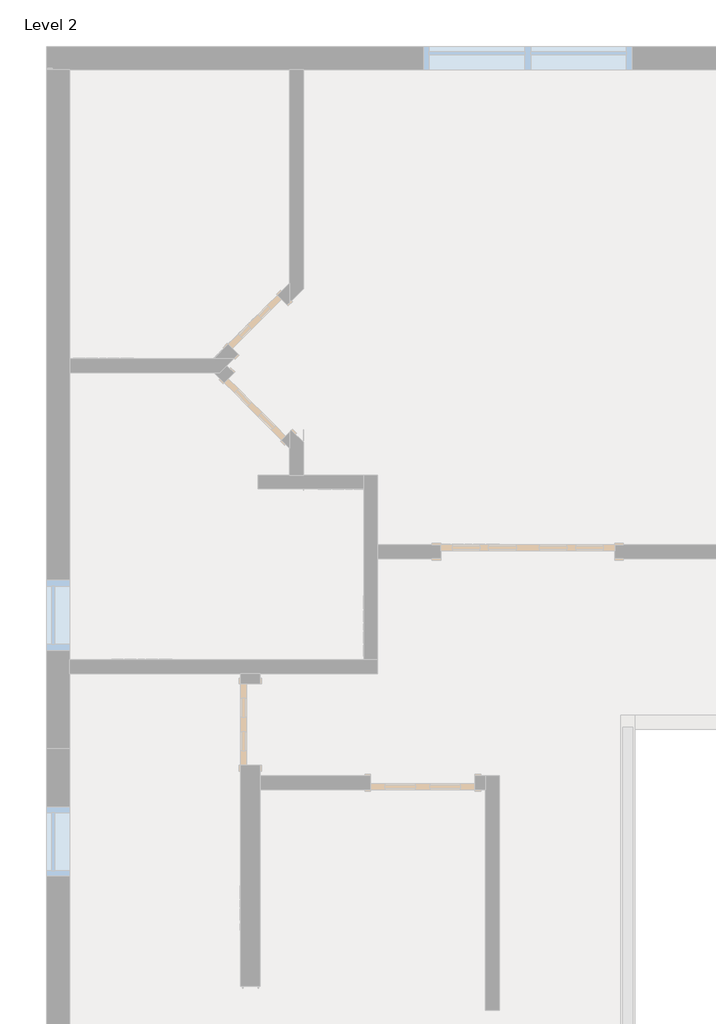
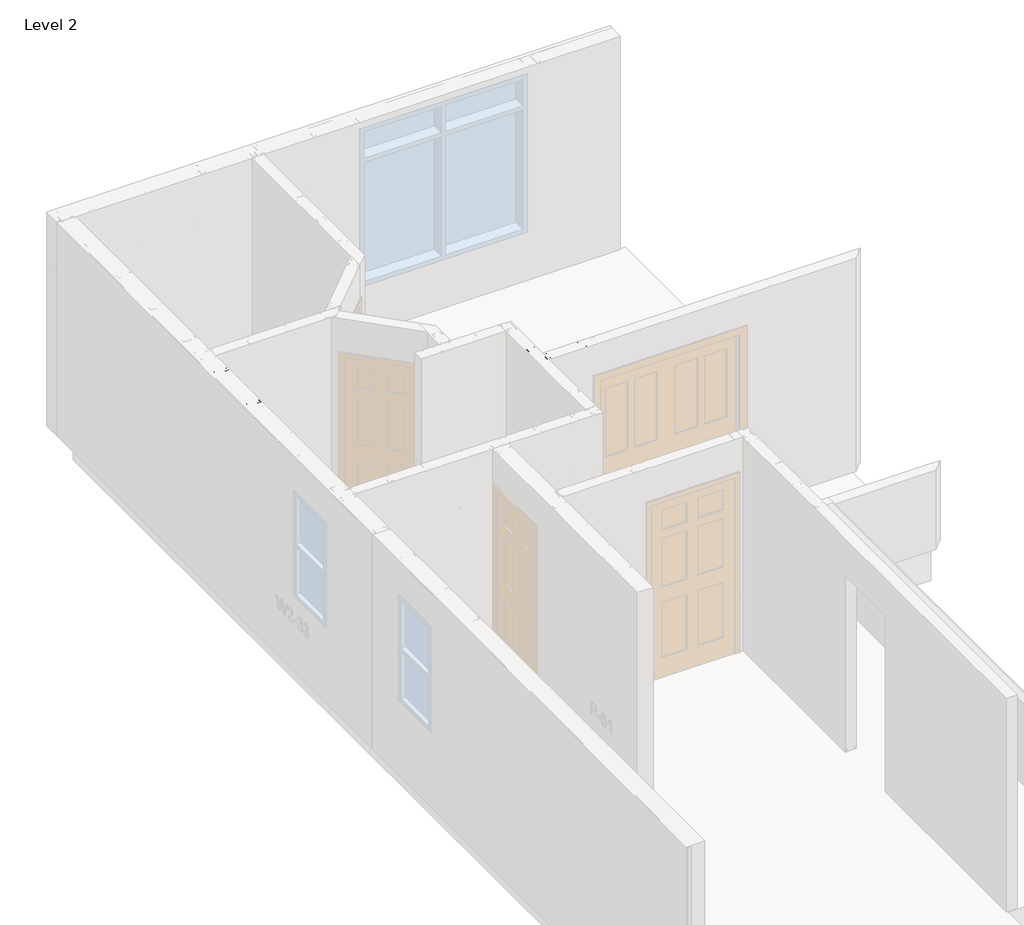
# One storey, part 27 of 46: 6 columns, 2 beams.
"""IFC4 building model written with IfcOpenShell, lengths in millimetres."""

from ifc_helpers import new_model, si_unit, point, frame, origin, place, context, project, spatial, circle_curve, ellipse_curve, trimmed, transform, mapped, element, save
from ifc_brep_helpers import plane_surface, extruded_surface, advanced_brep
from components import beam_350nf150_33_34e1ec87, beam_550nf150_43_92e15598

model = new_model("IFC4")

# Units and contexts
model_context = context("Model", 3, world=origin())
ifc_project = project(units=[si_unit("LENGTHUNIT", "METRE", prefix="MILLI")], contexts=[model_context])

# Site, building, storey
site = spatial("IfcSite", under=ifc_project)
building = spatial("IfcBuilding", under=site)
storey = spatial("IfcBuildingStorey", under=building, Name="Level 2", Elevation=3060.7)

# Beams
placement = place(None, origin())
beam_350nf150_33_shape = beam_350nf150_33_34e1ec87(model_context)
element("IfcBeam", 1, ObjectType="BIMSF-SSMA-S : 350NF150-33", at=placement, inside=storey, context=model_context, shape_type="MappedRepresentation", body=[
    mapped(beam_350nf150_33_shape, transform((-12144.5038349, 9633.077221, 3076.575), x_axis=(1.0000000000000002, 0.0, 0.0), y_axis=(0.0, 0.0, -1.0000000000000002), z_axis=(0.0, 1.0000000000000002, 0.0))),
])
beam_550nf150_43_shape = beam_550nf150_43_92e15598(model_context)
element("IfcBeam", 2, ObjectType="BIMSF-SSMA-S : 550NF150-43", at=placement, inside=storey, context=model_context, shape_type="MappedRepresentation", body=[
    mapped(beam_550nf150_43_shape, transform((-15194.0913349, 10886.5324992, 3076.575), x_axis=(0.0, 1.0000000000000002, 0.0), y_axis=(0.0, 0.0, -1.0000000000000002), z_axis=(-1.0000000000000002, 0.0, 0.0))),
])

# Columns
element("IfcColumn", 3, ObjectType="BIMSF-SSMA-S-Column : 350NF150-33", at=placement, inside=storey, context=model_context, shape_type="AdvancedBrep", body=[
    advanced_brep(
    [(-12428.6663349, 9375.902221, 3061.5929687), (-12517.5663349, 9375.902221, 3061.5929687), (-12517.5663349, 9414.002221, 3061.5929687), (-12511.9088191, 9414.002221, 3061.5929687), (-12511.9088191, 9413.1199052, 3061.5929687), (-12516.6840191, 9413.1199052, 3061.5929687), (-12516.6840191, 9376.7845367, 3061.5929687), (-12429.5486507, 9376.7845367, 3061.5929687), (-12429.5486507, 9413.1199052, 3061.5929687), (-12434.3238507, 9413.1199052, 3061.5929687), (-12434.3238507, 9414.002221, 3061.5929687), (-12428.6663349, 9414.002221, 3061.5929687), (-12428.6663349, 9375.902221, 5523.6070313), (-12517.5663349, 9375.902221, 5523.6070313), (-12485.8163349, 9375.902221, 3671.1929688), (-12460.4163349, 9375.902221, 3671.1929688), (-12485.8163349, 9375.902221, 4890.3929688), (-12460.4163349, 9375.902221, 4890.3929687), (-12517.5663349, 9414.002221, 5523.6070313), (-12511.9088191, 9414.002221, 5523.6070313), (-12511.9088191, 9413.1199052, 5523.6070313), (-12516.6840191, 9413.1199052, 5523.6070313), (-12516.6840191, 9376.7845367, 5523.6070313), (-12429.5486507, 9376.7845367, 5523.6070313), (-12460.4163349, 9376.7845367, 3671.1929688), (-12485.8163349, 9376.7845367, 3671.1929688), (-12460.4163349, 9376.7845367, 4890.3929688), (-12485.8163349, 9376.7845367, 4890.3929688), (-12429.5486507, 9413.1199052, 5523.6070313), (-12434.3238507, 9413.1199052, 5523.6070313), (-12434.3238507, 9414.002221, 5523.6070313), (-12428.6663349, 9414.002221, 5523.6070313)],
    [
        (0, 1),
        (1, 2),
        (2, 3),
        (3, 4),
        (4, 5),
        (5, 6),
        (6, 7),
        (7, 8),
        (8, 9),
        (9, 10),
        (10, 11),
        (11, 0),
        (0, 12),
        (12, 13),
        (13, 1),
        (14, 15, circle_curve(frame((-12473.1163349, 9375.902221, 3671.1929688), z_axis=(0.0, 1.0, 0.0), x_axis=(-1.0, 0.0, 0.0)), 12.7)),
        (15, 14, circle_curve(frame((-12473.1163349, 9375.902221, 3671.1929688), z_axis=(0.0, 1.0, 0.0), x_axis=(-1.0, 0.0, 0.0)), 12.7)),
        (16, 17, circle_curve(frame((-12473.1163349, 9375.902221, 4890.3929687), z_axis=(0.0, 1.0, 0.0), x_axis=(-1.0, 0.0, 0.0)), 12.7)),
        (17, 16, circle_curve(frame((-12473.1163349, 9375.902221, 4890.3929687), z_axis=(0.0, 1.0, 0.0), x_axis=(-1.0, 0.0, 0.0)), 12.7)),
        (13, 18),
        (18, 2),
        (18, 19),
        (19, 3),
        (19, 20),
        (20, 4),
        (20, 21),
        (21, 5),
        (21, 22),
        (22, 6),
        (22, 23),
        (23, 7),
        (24, 25, circle_curve(frame((-12473.1163349, 9376.7845367, 3671.1929687), z_axis=(0.0, -1.0, 0.0), x_axis=(-1.0, 0.0, 0.0)), 12.7)),
        (25, 24, circle_curve(frame((-12473.1163349, 9376.7845367, 3671.1929688), z_axis=(0.0, -1.0, 0.0), x_axis=(-1.0, 0.0, 0.0)), 12.7)),
        (26, 27, circle_curve(frame((-12473.1163349, 9376.7845367, 4890.3929687), z_axis=(0.0, -1.0, 0.0), x_axis=(-1.0, 0.0, 0.0)), 12.7)),
        (27, 26, circle_curve(frame((-12473.1163349, 9376.7845367, 4890.3929687), z_axis=(0.0, -1.0, 0.0), x_axis=(-1.0, 0.0, 0.0)), 12.7)),
        (23, 28),
        (28, 8),
        (28, 29),
        (29, 9),
        (29, 30),
        (30, 10),
        (30, 31),
        (31, 11),
        (31, 12),
        (24, 15),
        (14, 25),
        (26, 17),
        (16, 27),
    ],
    [
        plane_surface(frame((-12428.6663349, 9375.902221, 3061.5929687), z_axis=(0.0, 0.0, -1.0), x_axis=(0.0, -1.0, 0.0))),
        plane_surface(frame((-12517.5663349, 9375.902221, 5523.6070313), z_axis=(0.0, -1.0, 0.0), x_axis=(0.0, 0.0, -1.0))),
        plane_surface(frame((-12517.5663349, 9414.002221, 5523.6070313), z_axis=(-1.0, 0.0, 0.0), x_axis=(0.0, 0.0, -1.0))),
        plane_surface(frame((-12511.9088191, 9414.002221, 5523.6070313), z_axis=(0.0, 1.0, 0.0), x_axis=(0.0, 0.0, -1.0))),
        plane_surface(frame((-12511.9088191, 9413.1199052, 5523.6070313), z_axis=(1.0, 0.0, 0.0), x_axis=(0.0, 0.0, -1.0))),
        plane_surface(frame((-12516.6840191, 9413.1199052, 5523.6070313), z_axis=(0.0, -1.0, 0.0), x_axis=(0.0, 0.0, -1.0))),
        plane_surface(frame((-12516.6840191, 9376.7845367, 5523.6070313), z_axis=(1.0, 0.0, 0.0), x_axis=(0.0, 0.0, -1.0))),
        plane_surface(frame((-12429.5486507, 9376.7845367, 5523.6070313), z_axis=(0.0, 1.0, 0.0), x_axis=(0.0, 0.0, -1.0))),
        plane_surface(frame((-12429.5486507, 9413.1199052, 5523.6070313), z_axis=(-1.0, 0.0, 0.0), x_axis=(0.0, 0.0, -1.0))),
        plane_surface(frame((-12434.3238507, 9413.1199052, 5523.6070313), z_axis=(0.0, -1.0, 0.0), x_axis=(0.0, 0.0, -1.0))),
        plane_surface(frame((-12434.3238507, 9414.002221, 5523.6070313), z_axis=(-1.0, 0.0, 0.0), x_axis=(0.0, 0.0, -1.0))),
        plane_surface(frame((-12428.6663349, 9414.002221, 5523.6070313), z_axis=(0.0, 1.0, 0.0), x_axis=(0.0, 0.0, -1.0))),
        plane_surface(frame((-12428.6663349, 9375.902221, 5523.6070313), z_axis=(1.0, 0.0, 0.0), x_axis=(0.0, 0.0, -1.0))),
        plane_surface(frame((-12428.6663349, 9375.902221, 5523.6070313), z_axis=(0.0, 0.0, 1.0), x_axis=(0.0, 1.0, 0.0))),
        extruded_surface(trimmed(ellipse_curve(frame((-12473.1163349, 11856.9662835, 3671.1929688), z_axis=(0.0, -1.0, 0.0), x_axis=(-1.0, 0.0, 0.0)), 12.7, 12.7), [point((-12460.4163349, 11856.9662835, 3671.1929688))], [point((-12485.8163349, 11856.9662835, 3671.1929688))], True, "CARTESIAN"), (0.0, 4924.028124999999, 0.0), 4924.028124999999),
        extruded_surface(trimmed(ellipse_curve(frame((-12473.1163349, 11856.9662835, 3671.1929688), z_axis=(0.0, -1.0, 0.0), x_axis=(-1.0, 0.0, 0.0)), 12.7, 12.7), [point((-12485.8163349, 11856.9662835, 3671.1929688))], [point((-12460.4163349, 11856.9662835, 3671.1929688))], True, "CARTESIAN"), (0.0, 4924.028124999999, 0.0), 4924.028124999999),
        extruded_surface(trimmed(ellipse_curve(frame((-12473.1163349, 11856.9662835, 4890.3929687), z_axis=(0.0, -1.0, 0.0), x_axis=(-1.0, 0.0, 0.0)), 12.7, 12.7), [point((-12460.4163349, 11856.9662835, 4890.3929687))], [point((-12485.8163349, 11856.9662835, 4890.3929687))], True, "CARTESIAN"), (0.0, 4924.028124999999, 0.0), 4924.028124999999),
        extruded_surface(trimmed(ellipse_curve(frame((-12473.1163349, 11856.9662835, 4890.3929687), z_axis=(0.0, -1.0, 0.0), x_axis=(-1.0, 0.0, 0.0)), 12.7, 12.7), [point((-12485.8163349, 11856.9662835, 4890.3929687))], [point((-12460.4163349, 11856.9662835, 4890.3929687))], True, "CARTESIAN"), (0.0, 4924.028124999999, 0.0), 4924.028124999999),
    ],
    [
        (0, [[1, 2, 3, 4, 5, 6, 7, 8, 9, 10, 11, 12]]),
        (1, [[-1, 13, 14, 15], [16, 17], [18, 19]]),
        (2, [[-2, -15, 20, 21]]),
        (3, [[-3, -21, 22, 23]]),
        (4, [[-4, -23, 24, 25]]),
        (5, [[-5, -25, 26, 27]]),
        (6, [[-6, -27, 28, 29]]),
        (7, [[-7, -29, 30, 31], [32, 33], [34, 35]]),
        (8, [[-8, -31, 36, 37]]),
        (9, [[-9, -37, 38, 39]]),
        (10, [[-10, -39, 40, 41]]),
        (11, [[-11, -41, 42, 43]]),
        (12, [[-12, -43, 44, -13]]),
        (13, [[-14, -44, -42, -40, -38, -36, -30, -28, -26, -24, -22, -20]]),
        (14, [[45, -16, 46, -32]]),
        (15, [[-45, -33, -46, -17]]),
        (16, [[47, -18, 48, -34]]),
        (17, [[-47, -35, -48, -19]]),
    ],
),
])
element("IfcColumn", 4, ObjectType="BIMSF-SSMA-S-Column : 350NF150-33", at=placement, inside=storey, context=model_context, shape_type="AdvancedBrep", body=[
    advanced_brep(
    [(-12428.6663349, 9782.302221, 3061.5929687), (-12517.5663349, 9782.302221, 3061.5929687), (-12517.5663349, 9820.402221, 3061.5929687), (-12511.9088191, 9820.402221, 3061.5929687), (-12511.9088191, 9819.5199052, 3061.5929687), (-12516.6840191, 9819.5199052, 3061.5929687), (-12516.6840191, 9783.1845367, 3061.5929687), (-12429.5486507, 9783.1845367, 3061.5929687), (-12429.5486507, 9819.5199052, 3061.5929687), (-12434.3238507, 9819.5199052, 3061.5929687), (-12434.3238507, 9820.402221, 3061.5929687), (-12428.6663349, 9820.402221, 3061.5929687), (-12428.6663349, 9782.302221, 5523.6070313), (-12517.5663349, 9782.302221, 5523.6070313), (-12485.8163349, 9782.302221, 3671.1929688), (-12460.4163349, 9782.302221, 3671.1929688), (-12485.8163349, 9782.302221, 4890.3929688), (-12460.4163349, 9782.302221, 4890.3929687), (-12517.5663349, 9820.402221, 5523.6070313), (-12511.9088191, 9820.402221, 5523.6070313), (-12511.9088191, 9819.5199052, 5523.6070313), (-12516.6840191, 9819.5199052, 5523.6070313), (-12516.6840191, 9783.1845367, 5523.6070313), (-12429.5486507, 9783.1845367, 5523.6070313), (-12460.4163349, 9783.1845367, 3671.1929688), (-12485.8163349, 9783.1845367, 3671.1929688), (-12460.4163349, 9783.1845367, 4890.3929688), (-12485.8163349, 9783.1845367, 4890.3929688), (-12429.5486507, 9819.5199052, 5523.6070313), (-12434.3238507, 9819.5199052, 5523.6070313), (-12434.3238507, 9820.402221, 5523.6070313), (-12428.6663349, 9820.402221, 5523.6070313)],
    [
        (0, 1),
        (1, 2),
        (2, 3),
        (3, 4),
        (4, 5),
        (5, 6),
        (6, 7),
        (7, 8),
        (8, 9),
        (9, 10),
        (10, 11),
        (11, 0),
        (0, 12),
        (12, 13),
        (13, 1),
        (14, 15, circle_curve(frame((-12473.1163349, 9782.302221, 3671.1929688), z_axis=(0.0, 1.0, 0.0), x_axis=(-1.0, 0.0, 0.0)), 12.7)),
        (15, 14, circle_curve(frame((-12473.1163349, 9782.302221, 3671.1929688), z_axis=(0.0, 1.0, 0.0), x_axis=(-1.0, 0.0, 0.0)), 12.7)),
        (16, 17, circle_curve(frame((-12473.1163349, 9782.302221, 4890.3929687), z_axis=(0.0, 1.0, 0.0), x_axis=(-1.0, 0.0, 0.0)), 12.7)),
        (17, 16, circle_curve(frame((-12473.1163349, 9782.302221, 4890.3929687), z_axis=(0.0, 1.0, 0.0), x_axis=(-1.0, 0.0, 0.0)), 12.7)),
        (13, 18),
        (18, 2),
        (18, 19),
        (19, 3),
        (19, 20),
        (20, 4),
        (20, 21),
        (21, 5),
        (21, 22),
        (22, 6),
        (22, 23),
        (23, 7),
        (24, 25, circle_curve(frame((-12473.1163349, 9783.1845367, 3671.1929687), z_axis=(0.0, -1.0, 0.0), x_axis=(-1.0, 0.0, 0.0)), 12.7)),
        (25, 24, circle_curve(frame((-12473.1163349, 9783.1845367, 3671.1929687), z_axis=(0.0, -1.0, 0.0), x_axis=(-1.0, 0.0, 0.0)), 12.7)),
        (26, 27, circle_curve(frame((-12473.1163349, 9783.1845367, 4890.3929687), z_axis=(0.0, -1.0, 0.0), x_axis=(-1.0, 0.0, 0.0)), 12.7)),
        (27, 26, circle_curve(frame((-12473.1163349, 9783.1845367, 4890.3929687), z_axis=(0.0, -1.0, 0.0), x_axis=(-1.0, 0.0, 0.0)), 12.7)),
        (23, 28),
        (28, 8),
        (28, 29),
        (29, 9),
        (29, 30),
        (30, 10),
        (30, 31),
        (31, 11),
        (31, 12),
        (24, 15),
        (14, 25),
        (26, 17),
        (16, 27),
    ],
    [
        plane_surface(frame((-12428.6663349, 9782.302221, 3061.5929687), z_axis=(0.0, 0.0, -1.0), x_axis=(0.0, -1.0, 0.0))),
        plane_surface(frame((-12517.5663349, 9782.302221, 5523.6070313), z_axis=(0.0, -1.0, 0.0), x_axis=(0.0, 0.0, -1.0))),
        plane_surface(frame((-12517.5663349, 9820.402221, 5523.6070313), z_axis=(-1.0, 0.0, 0.0), x_axis=(0.0, 0.0, -1.0))),
        plane_surface(frame((-12511.9088191, 9820.402221, 5523.6070313), z_axis=(0.0, 1.0, 0.0), x_axis=(0.0, 0.0, -1.0))),
        plane_surface(frame((-12511.9088191, 9819.5199052, 5523.6070313), z_axis=(1.0, 0.0, 0.0), x_axis=(0.0, 0.0, -1.0))),
        plane_surface(frame((-12516.6840191, 9819.5199052, 5523.6070313), z_axis=(0.0, -1.0, 0.0), x_axis=(0.0, 0.0, -1.0))),
        plane_surface(frame((-12516.6840191, 9783.1845367, 5523.6070313), z_axis=(1.0, 0.0, 0.0), x_axis=(0.0, 0.0, -1.0))),
        plane_surface(frame((-12429.5486507, 9783.1845367, 5523.6070313), z_axis=(0.0, 1.0, 0.0), x_axis=(0.0, 0.0, -1.0))),
        plane_surface(frame((-12429.5486507, 9819.5199052, 5523.6070313), z_axis=(-1.0, 0.0, 0.0), x_axis=(0.0, 0.0, -1.0))),
        plane_surface(frame((-12434.3238507, 9819.5199052, 5523.6070313), z_axis=(0.0, -1.0, 0.0), x_axis=(0.0, 0.0, -1.0))),
        plane_surface(frame((-12434.3238507, 9820.402221, 5523.6070313), z_axis=(-1.0, 0.0, 0.0), x_axis=(0.0, 0.0, -1.0))),
        plane_surface(frame((-12428.6663349, 9820.402221, 5523.6070313), z_axis=(0.0, 1.0, 0.0), x_axis=(0.0, 0.0, -1.0))),
        plane_surface(frame((-12428.6663349, 9782.302221, 5523.6070313), z_axis=(1.0, 0.0, 0.0), x_axis=(0.0, 0.0, -1.0))),
        plane_surface(frame((-12428.6663349, 9782.302221, 5523.6070313), z_axis=(0.0, 0.0, 1.0), x_axis=(0.0, 1.0, 0.0))),
        extruded_surface(trimmed(ellipse_curve(frame((-12473.1163349, 12263.3662835, 3671.1929688), z_axis=(0.0, -1.0, 0.0), x_axis=(-1.0, 0.0, 0.0)), 12.7, 12.7), [point((-12460.4163349, 12263.3662835, 3671.1929688))], [point((-12485.8163349, 12263.3662835, 3671.1929688))], True, "CARTESIAN"), (0.0, 4924.028125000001, 0.0), 4924.028125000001),
        extruded_surface(trimmed(ellipse_curve(frame((-12473.1163349, 12263.3662835, 3671.1929688), z_axis=(0.0, -1.0, 0.0), x_axis=(-1.0, 0.0, 0.0)), 12.7, 12.7), [point((-12485.8163349, 12263.3662835, 3671.1929688))], [point((-12460.4163349, 12263.3662835, 3671.1929688))], True, "CARTESIAN"), (0.0, 4924.028125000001, 0.0), 4924.028125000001),
        extruded_surface(trimmed(ellipse_curve(frame((-12473.1163349, 12263.3662835, 4890.3929687), z_axis=(0.0, -1.0, 0.0), x_axis=(-1.0, 0.0, 0.0)), 12.7, 12.7), [point((-12460.4163349, 12263.3662835, 4890.3929687))], [point((-12485.8163349, 12263.3662835, 4890.3929687))], True, "CARTESIAN"), (0.0, 4924.028125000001, 0.0), 4924.028125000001),
        extruded_surface(trimmed(ellipse_curve(frame((-12473.1163349, 12263.3662835, 4890.3929687), z_axis=(0.0, -1.0, 0.0), x_axis=(-1.0, 0.0, 0.0)), 12.7, 12.7), [point((-12485.8163349, 12263.3662835, 4890.3929687))], [point((-12460.4163349, 12263.3662835, 4890.3929687))], True, "CARTESIAN"), (0.0, 4924.028125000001, 0.0), 4924.028125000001),
    ],
    [
        (0, [[1, 2, 3, 4, 5, 6, 7, 8, 9, 10, 11, 12]]),
        (1, [[-1, 13, 14, 15], [16, 17], [18, 19]]),
        (2, [[-2, -15, 20, 21]]),
        (3, [[-3, -21, 22, 23]]),
        (4, [[-4, -23, 24, 25]]),
        (5, [[-5, -25, 26, 27]]),
        (6, [[-6, -27, 28, 29]]),
        (7, [[-7, -29, 30, 31], [32, 33], [34, 35]]),
        (8, [[-8, -31, 36, 37]]),
        (9, [[-9, -37, 38, 39]]),
        (10, [[-10, -39, 40, 41]]),
        (11, [[-11, -41, 42, 43]]),
        (12, [[-12, -43, 44, -13]]),
        (13, [[-14, -44, -42, -40, -38, -36, -30, -28, -26, -24, -22, -20]]),
        (14, [[45, -16, 46, -32]]),
        (15, [[-45, -33, -46, -17]]),
        (16, [[47, -18, 48, -34]]),
        (17, [[-47, -35, -48, -19]]),
    ],
),
])
element("IfcColumn", 5, ObjectType="BIMSF-SSMA-S-Column : 350NF150-33", at=placement, inside=storey, context=model_context, shape_type="AdvancedBrep", body=[
    advanced_brep(
    [(-12428.6663349, 9588.627221, 3061.5929687), (-12428.6663349, 9677.527221, 3061.5929687), (-12390.5663349, 9677.527221, 3061.5929687), (-12390.5663349, 9671.8697052, 3061.5929687), (-12391.4486507, 9671.8697052, 3061.5929687), (-12391.4486507, 9676.6449052, 3061.5929687), (-12427.7840191, 9676.6449052, 3061.5929687), (-12427.7840191, 9589.5095367, 3061.5929687), (-12391.4486507, 9589.5095367, 3061.5929687), (-12391.4486507, 9594.2847367, 3061.5929687), (-12390.5663349, 9594.2847367, 3061.5929687), (-12390.5663349, 9588.627221, 3061.5929687), (-12428.6663349, 9588.627221, 5523.6070313), (-12428.6663349, 9677.527221, 5523.6070313), (-12428.6663349, 9645.777221, 3671.1929688), (-12428.6663349, 9620.377221, 3671.1929688), (-12428.6663349, 9645.777221, 4890.3929687), (-12428.6663349, 9620.377221, 4890.3929687), (-12390.5663349, 9677.527221, 5523.6070313), (-12390.5663349, 9671.8697052, 5523.6070313), (-12391.4486507, 9671.8697052, 5523.6070313), (-12391.4486507, 9676.6449052, 5523.6070313), (-12427.7840191, 9676.6449052, 5523.6070313), (-12427.7840191, 9589.5095367, 5523.6070313), (-12427.7840191, 9620.377221, 3671.1929688), (-12427.7840191, 9645.777221, 3671.1929688), (-12427.7840191, 9620.377221, 4890.3929687), (-12427.7840191, 9645.777221, 4890.3929687), (-12391.4486507, 9589.5095367, 5523.6070313), (-12391.4486507, 9594.2847367, 5523.6070313), (-12390.5663349, 9594.2847367, 5523.6070313), (-12390.5663349, 9588.627221, 5523.6070313)],
    [
        (0, 1),
        (1, 2),
        (2, 3),
        (3, 4),
        (4, 5),
        (5, 6),
        (6, 7),
        (7, 8),
        (8, 9),
        (9, 10),
        (10, 11),
        (11, 0),
        (0, 12),
        (12, 13),
        (13, 1),
        (14, 15, circle_curve(frame((-12428.6663349, 9633.077221, 3671.1929687), z_axis=(1.0, 0.0, 0.0), x_axis=(0.0, 1.0, 0.0)), 12.7)),
        (15, 14, circle_curve(frame((-12428.6663349, 9633.077221, 3671.1929687), z_axis=(1.0, 0.0, 0.0), x_axis=(0.0, 1.0, 0.0)), 12.7)),
        (16, 17, circle_curve(frame((-12428.6663349, 9633.077221, 4890.3929687), z_axis=(1.0, 0.0, 0.0), x_axis=(0.0, 1.0, 0.0)), 12.7)),
        (17, 16, circle_curve(frame((-12428.6663349, 9633.077221, 4890.3929687), z_axis=(1.0, 0.0, 0.0), x_axis=(0.0, 1.0, 0.0)), 12.7)),
        (13, 18),
        (18, 2),
        (18, 19),
        (19, 3),
        (19, 20),
        (20, 4),
        (20, 21),
        (21, 5),
        (21, 22),
        (22, 6),
        (22, 23),
        (23, 7),
        (24, 25, circle_curve(frame((-12427.7840191, 9633.077221, 3671.1929688), z_axis=(-1.0, 0.0, 0.0), x_axis=(0.0, 1.0, 0.0)), 12.7)),
        (25, 24, circle_curve(frame((-12427.7840191, 9633.077221, 3671.1929688), z_axis=(-1.0, 0.0, 0.0), x_axis=(0.0, 1.0, 0.0)), 12.7)),
        (26, 27, circle_curve(frame((-12427.7840191, 9633.077221, 4890.3929687), z_axis=(-1.0, 0.0, 0.0), x_axis=(0.0, 1.0, 0.0)), 12.7)),
        (27, 26, circle_curve(frame((-12427.7840191, 9633.077221, 4890.3929687), z_axis=(-1.0, 0.0, 0.0), x_axis=(0.0, 1.0, 0.0)), 12.7)),
        (23, 28),
        (28, 8),
        (28, 29),
        (29, 9),
        (29, 30),
        (30, 10),
        (30, 31),
        (31, 11),
        (31, 12),
        (24, 15),
        (14, 25),
        (26, 17),
        (16, 27),
    ],
    [
        plane_surface(frame((-12428.6663349, 9588.627221, 3061.5929687), z_axis=(0.0, 0.0, -1.0), x_axis=(-1.0, 0.0, 0.0))),
        plane_surface(frame((-12428.6663349, 9677.527221, 5523.6070313), z_axis=(-1.0, 0.0, 0.0), x_axis=(0.0, 0.0, -1.0))),
        plane_surface(frame((-12390.5663349, 9677.527221, 5523.6070313), z_axis=(0.0, 1.0, 0.0), x_axis=(0.0, 0.0, -1.0))),
        plane_surface(frame((-12390.5663349, 9671.8697052, 5523.6070313), z_axis=(1.0, 0.0, 0.0), x_axis=(0.0, 0.0, -1.0))),
        plane_surface(frame((-12391.4486507, 9671.8697052, 5523.6070313), z_axis=(0.0, -1.0, 0.0), x_axis=(0.0, 0.0, -1.0))),
        plane_surface(frame((-12391.4486507, 9676.6449052, 5523.6070313), z_axis=(-1.0, 0.0, 0.0), x_axis=(0.0, 0.0, -1.0))),
        plane_surface(frame((-12427.7840191, 9676.6449052, 5523.6070313), z_axis=(0.0, -1.0, 0.0), x_axis=(0.0, 0.0, -1.0))),
        plane_surface(frame((-12427.7840191, 9589.5095367, 5523.6070313), z_axis=(1.0, 0.0, 0.0), x_axis=(0.0, 0.0, -1.0))),
        plane_surface(frame((-12391.4486507, 9589.5095367, 5523.6070313), z_axis=(0.0, 1.0, 0.0), x_axis=(0.0, 0.0, -1.0))),
        plane_surface(frame((-12391.4486507, 9594.2847367, 5523.6070313), z_axis=(-1.0, 0.0, 0.0), x_axis=(0.0, 0.0, -1.0))),
        plane_surface(frame((-12390.5663349, 9594.2847367, 5523.6070313), z_axis=(0.0, 1.0, 0.0), x_axis=(0.0, 0.0, -1.0))),
        plane_surface(frame((-12390.5663349, 9588.627221, 5523.6070313), z_axis=(1.0, 0.0, 0.0), x_axis=(0.0, 0.0, -1.0))),
        plane_surface(frame((-12428.6663349, 9588.627221, 5523.6070313), z_axis=(0.0, -1.0, 0.0), x_axis=(0.0, 0.0, -1.0))),
        plane_surface(frame((-12428.6663349, 9588.627221, 5523.6070313), z_axis=(0.0, 0.0, 1.0), x_axis=(1.0, 0.0, 0.0))),
        extruded_surface(trimmed(ellipse_curve(frame((-9947.6022724, 9633.077221, 3671.1929688), z_axis=(-1.0, 0.0, 0.0), x_axis=(0.0, 1.0, 0.0)), 12.7, 12.7), [point((-9947.6022724, 9620.377221, 3671.1929688))], [point((-9947.6022724, 9645.777221, 3671.1929688))], True, "CARTESIAN"), (4924.028125, 0.0, 0.0), 4924.028125),
        extruded_surface(trimmed(ellipse_curve(frame((-9947.6022724, 9633.077221, 3671.1929688), z_axis=(-1.0, 0.0, 0.0), x_axis=(0.0, 1.0, 0.0)), 12.7, 12.7), [point((-9947.6022724, 9645.777221, 3671.1929688))], [point((-9947.6022724, 9620.377221, 3671.1929688))], True, "CARTESIAN"), (4924.028125, 0.0, 0.0), 4924.028125),
        extruded_surface(trimmed(ellipse_curve(frame((-9947.6022724, 9633.077221, 4890.3929687), z_axis=(-1.0, 0.0, 0.0), x_axis=(0.0, 1.0, 0.0)), 12.7, 12.7), [point((-9947.6022724, 9620.377221, 4890.3929687))], [point((-9947.6022724, 9645.777221, 4890.3929687))], True, "CARTESIAN"), (4924.028125, 0.0, 0.0), 4924.028125),
        extruded_surface(trimmed(ellipse_curve(frame((-9947.6022724, 9633.077221, 4890.3929687), z_axis=(-1.0, 0.0, 0.0), x_axis=(0.0, 1.0, 0.0)), 12.7, 12.7), [point((-9947.6022724, 9645.777221, 4890.3929687))], [point((-9947.6022724, 9620.377221, 4890.3929687))], True, "CARTESIAN"), (4924.028125, 0.0, 0.0), 4924.028125),
    ],
    [
        (0, [[1, 2, 3, 4, 5, 6, 7, 8, 9, 10, 11, 12]]),
        (1, [[-1, 13, 14, 15], [16, 17], [18, 19]]),
        (2, [[-2, -15, 20, 21]]),
        (3, [[-3, -21, 22, 23]]),
        (4, [[-4, -23, 24, 25]]),
        (5, [[-5, -25, 26, 27]]),
        (6, [[-6, -27, 28, 29]]),
        (7, [[-7, -29, 30, 31], [32, 33], [34, 35]]),
        (8, [[-8, -31, 36, 37]]),
        (9, [[-9, -37, 38, 39]]),
        (10, [[-10, -39, 40, 41]]),
        (11, [[-11, -41, 42, 43]]),
        (12, [[-12, -43, 44, -13]]),
        (13, [[-14, -44, -42, -40, -38, -36, -30, -28, -26, -24, -22, -20]]),
        (14, [[45, -16, 46, -32]]),
        (15, [[-45, -33, -46, -17]]),
        (16, [[47, -18, 48, -34]]),
        (17, [[-47, -35, -48, -19]]),
    ],
),
])
element("IfcColumn", 6, ObjectType="BIMSF-SSMA-S-Column : 350NF150-33", at=placement, inside=storey, context=model_context, shape_type="AdvancedBrep", body=[
    advanced_brep(
    [(-12041.3163349, 9588.627221, 3061.5929687), (-12041.3163349, 9677.527221, 3061.5929687), (-12003.2163349, 9677.527221, 3061.5929687), (-12003.2163349, 9671.8697052, 3061.5929687), (-12004.0986507, 9671.8697052, 3061.5929687), (-12004.0986507, 9676.6449052, 3061.5929687), (-12040.4340191, 9676.6449052, 3061.5929687), (-12040.4340191, 9589.5095367, 3061.5929687), (-12004.0986507, 9589.5095367, 3061.5929687), (-12004.0986507, 9594.2847367, 3061.5929687), (-12003.2163349, 9594.2847367, 3061.5929687), (-12003.2163349, 9588.627221, 3061.5929687), (-12041.3163349, 9588.627221, 5523.6070313), (-12041.3163349, 9677.527221, 5523.6070313), (-12041.3163349, 9645.777221, 3671.1929688), (-12041.3163349, 9620.377221, 3671.1929688), (-12041.3163349, 9645.777221, 4890.3929687), (-12041.3163349, 9620.377221, 4890.3929687), (-12003.2163349, 9677.527221, 5523.6070313), (-12003.2163349, 9671.8697052, 5523.6070313), (-12004.0986507, 9671.8697052, 5523.6070313), (-12004.0986507, 9676.6449052, 5523.6070313), (-12040.4340191, 9676.6449052, 5523.6070313), (-12040.4340191, 9589.5095367, 5523.6070313), (-12040.4340191, 9620.377221, 3671.1929688), (-12040.4340191, 9645.777221, 3671.1929688), (-12040.4340191, 9620.377221, 4890.3929687), (-12040.4340191, 9645.777221, 4890.3929687), (-12004.0986507, 9589.5095367, 5523.6070313), (-12004.0986507, 9594.2847367, 5523.6070313), (-12003.2163349, 9594.2847367, 5523.6070313), (-12003.2163349, 9588.627221, 5523.6070313)],
    [
        (0, 1),
        (1, 2),
        (2, 3),
        (3, 4),
        (4, 5),
        (5, 6),
        (6, 7),
        (7, 8),
        (8, 9),
        (9, 10),
        (10, 11),
        (11, 0),
        (0, 12),
        (12, 13),
        (13, 1),
        (14, 15, circle_curve(frame((-12041.3163349, 9633.077221, 3671.1929688), z_axis=(1.0, 0.0, 0.0), x_axis=(0.0, 1.0, 0.0)), 12.7)),
        (15, 14, circle_curve(frame((-12041.3163349, 9633.077221, 3671.1929688), z_axis=(1.0, 0.0, 0.0), x_axis=(0.0, 1.0, 0.0)), 12.7)),
        (16, 17, circle_curve(frame((-12041.3163349, 9633.077221, 4890.3929687), z_axis=(1.0, 0.0, 0.0), x_axis=(0.0, 1.0, 0.0)), 12.7)),
        (17, 16, circle_curve(frame((-12041.3163349, 9633.077221, 4890.3929687), z_axis=(1.0, 0.0, 0.0), x_axis=(0.0, 1.0, 0.0)), 12.7)),
        (13, 18),
        (18, 2),
        (18, 19),
        (19, 3),
        (19, 20),
        (20, 4),
        (20, 21),
        (21, 5),
        (21, 22),
        (22, 6),
        (22, 23),
        (23, 7),
        (24, 25, circle_curve(frame((-12040.4340191, 9633.077221, 3671.1929688), z_axis=(-1.0, 0.0, 0.0), x_axis=(0.0, 1.0, 0.0)), 12.7)),
        (25, 24, circle_curve(frame((-12040.4340191, 9633.077221, 3671.1929688), z_axis=(-1.0, 0.0, 0.0), x_axis=(0.0, 1.0, 0.0)), 12.7)),
        (26, 27, circle_curve(frame((-12040.4340191, 9633.077221, 4890.3929687), z_axis=(-1.0, 0.0, 0.0), x_axis=(0.0, 1.0, 0.0)), 12.7)),
        (27, 26, circle_curve(frame((-12040.4340191, 9633.077221, 4890.3929687), z_axis=(-1.0, 0.0, 0.0), x_axis=(0.0, 1.0, 0.0)), 12.7)),
        (23, 28),
        (28, 8),
        (28, 29),
        (29, 9),
        (29, 30),
        (30, 10),
        (30, 31),
        (31, 11),
        (31, 12),
        (24, 15),
        (14, 25),
        (26, 17),
        (16, 27),
    ],
    [
        plane_surface(frame((-12041.3163349, 9588.627221, 3061.5929687), z_axis=(0.0, 0.0, -1.0), x_axis=(-1.0, 0.0, 0.0))),
        plane_surface(frame((-12041.3163349, 9677.527221, 5523.6070313), z_axis=(-1.0, 0.0, 0.0), x_axis=(0.0, 0.0, -1.0))),
        plane_surface(frame((-12003.2163349, 9677.527221, 5523.6070313), z_axis=(0.0, 1.0, 0.0), x_axis=(0.0, 0.0, -1.0))),
        plane_surface(frame((-12003.2163349, 9671.8697052, 5523.6070313), z_axis=(1.0, 0.0, 0.0), x_axis=(0.0, 0.0, -1.0))),
        plane_surface(frame((-12004.0986507, 9671.8697052, 5523.6070313), z_axis=(0.0, -1.0, 0.0), x_axis=(0.0, 0.0, -1.0))),
        plane_surface(frame((-12004.0986507, 9676.6449052, 5523.6070313), z_axis=(-1.0, 0.0, 0.0), x_axis=(0.0, 0.0, -1.0))),
        plane_surface(frame((-12040.4340191, 9676.6449052, 5523.6070313), z_axis=(0.0, -1.0, 0.0), x_axis=(0.0, 0.0, -1.0))),
        plane_surface(frame((-12040.4340191, 9589.5095367, 5523.6070313), z_axis=(1.0, 0.0, 0.0), x_axis=(0.0, 0.0, -1.0))),
        plane_surface(frame((-12004.0986507, 9589.5095367, 5523.6070313), z_axis=(0.0, 1.0, 0.0), x_axis=(0.0, 0.0, -1.0))),
        plane_surface(frame((-12004.0986507, 9594.2847367, 5523.6070313), z_axis=(-1.0, 0.0, 0.0), x_axis=(0.0, 0.0, -1.0))),
        plane_surface(frame((-12003.2163349, 9594.2847367, 5523.6070313), z_axis=(0.0, 1.0, 0.0), x_axis=(0.0, 0.0, -1.0))),
        plane_surface(frame((-12003.2163349, 9588.627221, 5523.6070313), z_axis=(1.0, 0.0, 0.0), x_axis=(0.0, 0.0, -1.0))),
        plane_surface(frame((-12041.3163349, 9588.627221, 5523.6070313), z_axis=(0.0, -1.0, 0.0), x_axis=(0.0, 0.0, -1.0))),
        plane_surface(frame((-12041.3163349, 9588.627221, 5523.6070313), z_axis=(0.0, 0.0, 1.0), x_axis=(1.0, 0.0, 0.0))),
        extruded_surface(trimmed(ellipse_curve(frame((-9560.2522724, 9633.077221, 3671.1929688), z_axis=(-1.0, 0.0, 0.0), x_axis=(0.0, 1.0, 0.0)), 12.7, 12.7), [point((-9560.2522724, 9620.377221, 3671.1929688))], [point((-9560.2522724, 9645.777221, 3671.1929688))], True, "CARTESIAN"), (4924.028124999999, 0.0, 0.0), 4924.028124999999),
        extruded_surface(trimmed(ellipse_curve(frame((-9560.2522724, 9633.077221, 3671.1929688), z_axis=(-1.0, 0.0, 0.0), x_axis=(0.0, 1.0, 0.0)), 12.7, 12.7), [point((-9560.2522724, 9645.777221, 3671.1929688))], [point((-9560.2522724, 9620.377221, 3671.1929688))], True, "CARTESIAN"), (4924.028124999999, 0.0, 0.0), 4924.028124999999),
        extruded_surface(trimmed(ellipse_curve(frame((-9560.2522724, 9633.077221, 4890.3929687), z_axis=(-1.0, 0.0, 0.0), x_axis=(0.0, 1.0, 0.0)), 12.7, 12.7), [point((-9560.2522724, 9620.377221, 4890.3929687))], [point((-9560.2522724, 9645.777221, 4890.3929687))], True, "CARTESIAN"), (4924.028124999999, 0.0, 0.0), 4924.028124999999),
        extruded_surface(trimmed(ellipse_curve(frame((-9560.2522724, 9633.077221, 4890.3929687), z_axis=(-1.0, 0.0, 0.0), x_axis=(0.0, 1.0, 0.0)), 12.7, 12.7), [point((-9560.2522724, 9645.777221, 4890.3929687))], [point((-9560.2522724, 9620.377221, 4890.3929687))], True, "CARTESIAN"), (4924.028124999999, 0.0, 0.0), 4924.028124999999),
    ],
    [
        (0, [[1, 2, 3, 4, 5, 6, 7, 8, 9, 10, 11, 12]]),
        (1, [[-1, 13, 14, 15], [16, 17], [18, 19]]),
        (2, [[-2, -15, 20, 21]]),
        (3, [[-3, -21, 22, 23]]),
        (4, [[-4, -23, 24, 25]]),
        (5, [[-5, -25, 26, 27]]),
        (6, [[-6, -27, 28, 29]]),
        (7, [[-7, -29, 30, 31], [32, 33], [34, 35]]),
        (8, [[-8, -31, 36, 37]]),
        (9, [[-9, -37, 38, 39]]),
        (10, [[-10, -39, 40, 41]]),
        (11, [[-11, -41, 42, 43]]),
        (12, [[-12, -43, 44, -13]]),
        (13, [[-14, -44, -42, -40, -38, -36, -30, -28, -26, -24, -22, -20]]),
        (14, [[45, -16, 46, -32]]),
        (15, [[-45, -33, -46, -17]]),
        (16, [[47, -18, 48, -34]]),
        (17, [[-47, -35, -48, -19]]),
    ],
),
])
element("IfcColumn", 7, ObjectType="BIMSF-SSMA-S-Column : 550NF150-43", at=placement, inside=storey, context=model_context, shape_type="AdvancedBrep", body=[
    advanced_brep(
    [(-15124.2413349, 10327.0627774, 3061.5929687), (-15263.9413349, 10327.0627774, 3061.5929687), (-15263.9413349, 10365.1627774, 3061.5929687), (-15258.0164507, 10365.1627774, 3061.5929687), (-15258.0164507, 10364.0130931, 3061.5929687), (-15262.7916507, 10364.0130931, 3061.5929687), (-15262.7916507, 10328.2124616, 3061.5929687), (-15125.3910191, 10328.2124616, 3061.5929687), (-15125.3910191, 10364.0130931, 3061.5929687), (-15130.1662191, 10364.0130931, 3061.5929687), (-15130.1662191, 10365.1627774, 3061.5929687), (-15124.2413349, 10365.1627774, 3061.5929687), (-15124.2413349, 10327.0627774, 5523.6070313), (-15263.9413349, 10327.0627774, 5523.6070313), (-15206.7913349, 10327.0627774, 3671.1929688), (-15181.3913349, 10327.0627774, 3671.1929688), (-15206.7913349, 10327.0627774, 4890.3929688), (-15181.3913349, 10327.0627774, 4890.3929688), (-15263.9413349, 10365.1627774, 5523.6070313), (-15258.0164507, 10365.1627774, 5523.6070313), (-15258.0164507, 10364.0130931, 5523.6070313), (-15262.7916507, 10364.0130931, 5523.6070313), (-15262.7916507, 10328.2124616, 5523.6070313), (-15125.3910191, 10328.2124616, 5523.6070313), (-15181.3913349, 10328.2124616, 3671.1929688), (-15206.7913349, 10328.2124616, 3671.1929688), (-15181.3913349, 10328.2124616, 4890.3929688), (-15206.7913349, 10328.2124616, 4890.3929688), (-15125.3910191, 10364.0130931, 5523.6070313), (-15130.1662191, 10364.0130931, 5523.6070313), (-15130.1662191, 10365.1627774, 5523.6070313), (-15124.2413349, 10365.1627774, 5523.6070313)],
    [
        (0, 1),
        (1, 2),
        (2, 3),
        (3, 4),
        (4, 5),
        (5, 6),
        (6, 7),
        (7, 8),
        (8, 9),
        (9, 10),
        (10, 11),
        (11, 0),
        (0, 12),
        (12, 13),
        (13, 1),
        (14, 15, circle_curve(frame((-15194.0913349, 10327.0627774, 3671.1929688), z_axis=(0.0, 1.0, 0.0), x_axis=(-1.0, 0.0, 0.0)), 12.7)),
        (15, 14, circle_curve(frame((-15194.0913349, 10327.0627774, 3671.1929688), z_axis=(0.0, 1.0, 0.0), x_axis=(-1.0, 0.0, 0.0)), 12.7)),
        (16, 17, circle_curve(frame((-15194.0913349, 10327.0627774, 4890.3929687), z_axis=(0.0, 1.0, 0.0), x_axis=(-1.0, 0.0, 0.0)), 12.7)),
        (17, 16, circle_curve(frame((-15194.0913349, 10327.0627774, 4890.3929687), z_axis=(0.0, 1.0, 0.0), x_axis=(-1.0, 0.0, 0.0)), 12.7)),
        (13, 18),
        (18, 2),
        (18, 19),
        (19, 3),
        (19, 20),
        (20, 4),
        (20, 21),
        (21, 5),
        (21, 22),
        (22, 6),
        (22, 23),
        (23, 7),
        (24, 25, circle_curve(frame((-15194.0913349, 10328.2124616, 3671.1929688), z_axis=(0.0, -1.0, 0.0), x_axis=(-1.0, 0.0, 0.0)), 12.7)),
        (25, 24, circle_curve(frame((-15194.0913349, 10328.2124616, 3671.1929687), z_axis=(0.0, -1.0, 0.0), x_axis=(-1.0, 0.0, 0.0)), 12.7)),
        (26, 27, circle_curve(frame((-15194.0913349, 10328.2124616, 4890.3929687), z_axis=(0.0, -1.0, 0.0), x_axis=(-1.0, 0.0, 0.0)), 12.7)),
        (27, 26, circle_curve(frame((-15194.0913349, 10328.2124616, 4890.3929687), z_axis=(0.0, -1.0, 0.0), x_axis=(-1.0, 0.0, 0.0)), 12.7)),
        (23, 28),
        (28, 8),
        (28, 29),
        (29, 9),
        (29, 30),
        (30, 10),
        (30, 31),
        (31, 11),
        (31, 12),
        (24, 15),
        (14, 25),
        (26, 17),
        (16, 27),
    ],
    [
        plane_surface(frame((-15124.2413349, 10327.0627774, 3061.5929687), z_axis=(0.0, 0.0, -1.0), x_axis=(0.0, -1.0, 0.0))),
        plane_surface(frame((-15263.9413349, 10327.0627774, 5523.6070313), z_axis=(0.0, -1.0, 0.0), x_axis=(0.0, 0.0, -1.0))),
        plane_surface(frame((-15263.9413349, 10365.1627774, 5523.6070313), z_axis=(-1.0, 0.0, 0.0), x_axis=(0.0, 0.0, -1.0))),
        plane_surface(frame((-15258.0164507, 10365.1627774, 5523.6070313), z_axis=(0.0, 1.0, 0.0), x_axis=(0.0, 0.0, -1.0))),
        plane_surface(frame((-15258.0164507, 10364.0130931, 5523.6070313), z_axis=(1.0, 0.0, 0.0), x_axis=(0.0, 0.0, -1.0))),
        plane_surface(frame((-15262.7916507, 10364.0130931, 5523.6070313), z_axis=(0.0, -1.0, 0.0), x_axis=(0.0, 0.0, -1.0))),
        plane_surface(frame((-15262.7916507, 10328.2124616, 5523.6070313), z_axis=(1.0, 0.0, 0.0), x_axis=(0.0, 0.0, -1.0))),
        plane_surface(frame((-15125.3910191, 10328.2124616, 5523.6070313), z_axis=(0.0, 1.0, 0.0), x_axis=(0.0, 0.0, -1.0))),
        plane_surface(frame((-15125.3910191, 10364.0130931, 5523.6070313), z_axis=(-1.0, 0.0, 0.0), x_axis=(0.0, 0.0, -1.0))),
        plane_surface(frame((-15130.1662191, 10364.0130931, 5523.6070313), z_axis=(0.0, -1.0, 0.0), x_axis=(0.0, 0.0, -1.0))),
        plane_surface(frame((-15130.1662191, 10365.1627774, 5523.6070313), z_axis=(-1.0, 0.0, 0.0), x_axis=(0.0, 0.0, -1.0))),
        plane_surface(frame((-15124.2413349, 10365.1627774, 5523.6070313), z_axis=(0.0, 1.0, 0.0), x_axis=(0.0, 0.0, -1.0))),
        plane_surface(frame((-15124.2413349, 10327.0627774, 5523.6070313), z_axis=(1.0, 0.0, 0.0), x_axis=(0.0, 0.0, -1.0))),
        plane_surface(frame((-15124.2413349, 10327.0627774, 5523.6070313), z_axis=(0.0, 0.0, 1.0), x_axis=(0.0, 1.0, 0.0))),
        extruded_surface(trimmed(ellipse_curve(frame((-15194.0913349, 12808.1268399, 3671.1929688), z_axis=(0.0, -1.0, 0.0), x_axis=(-1.0, 0.0, 0.0)), 12.7, 12.7), [point((-15181.3913349, 12808.1268399, 3671.1929688))], [point((-15206.7913349, 12808.1268399, 3671.1929688))], True, "CARTESIAN"), (0.0, 4924.028125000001, 0.0), 4924.028125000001),
        extruded_surface(trimmed(ellipse_curve(frame((-15194.0913349, 12808.1268399, 3671.1929688), z_axis=(0.0, -1.0, 0.0), x_axis=(-1.0, 0.0, 0.0)), 12.7, 12.7), [point((-15206.7913349, 12808.1268399, 3671.1929688))], [point((-15181.3913349, 12808.1268399, 3671.1929688))], True, "CARTESIAN"), (0.0, 4924.028125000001, 0.0), 4924.028125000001),
        extruded_surface(trimmed(ellipse_curve(frame((-15194.0913349, 12808.1268399, 4890.3929687), z_axis=(0.0, -1.0, 0.0), x_axis=(-1.0, 0.0, 0.0)), 12.7, 12.7), [point((-15181.3913349, 12808.1268399, 4890.3929687))], [point((-15206.7913349, 12808.1268399, 4890.3929687))], True, "CARTESIAN"), (0.0, 4924.028125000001, 0.0), 4924.028125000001),
        extruded_surface(trimmed(ellipse_curve(frame((-15194.0913349, 12808.1268399, 4890.3929687), z_axis=(0.0, -1.0, 0.0), x_axis=(-1.0, 0.0, 0.0)), 12.7, 12.7), [point((-15206.7913349, 12808.1268399, 4890.3929687))], [point((-15181.3913349, 12808.1268399, 4890.3929687))], True, "CARTESIAN"), (0.0, 4924.028125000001, 0.0), 4924.028125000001),
    ],
    [
        (0, [[1, 2, 3, 4, 5, 6, 7, 8, 9, 10, 11, 12]]),
        (1, [[-1, 13, 14, 15], [16, 17], [18, 19]]),
        (2, [[-2, -15, 20, 21]]),
        (3, [[-3, -21, 22, 23]]),
        (4, [[-4, -23, 24, 25]]),
        (5, [[-5, -25, 26, 27]]),
        (6, [[-6, -27, 28, 29]]),
        (7, [[-7, -29, 30, 31], [32, 33], [34, 35]]),
        (8, [[-8, -31, 36, 37]]),
        (9, [[-9, -37, 38, 39]]),
        (10, [[-10, -39, 40, 41]]),
        (11, [[-11, -41, 42, 43]]),
        (12, [[-12, -43, 44, -13]]),
        (13, [[-14, -44, -42, -40, -38, -36, -30, -28, -26, -24, -22, -20]]),
        (14, [[45, -16, 46, -32]]),
        (15, [[-45, -33, -46, -17]]),
        (16, [[47, -18, 48, -34]]),
        (17, [[-47, -35, -48, -19]]),
    ],
),
])
element("IfcColumn", 8, ObjectType="BIMSF-SSMA-S-Column : 550NF150-43", at=placement, inside=storey, context=model_context, shape_type="AdvancedBrep", body=[
    advanced_brep(
    [(-15124.2413349, 10936.6627774, 3061.5929687), (-15263.9413349, 10936.6627774, 3061.5929687), (-15263.9413349, 10974.7627774, 3061.5929687), (-15258.0164507, 10974.7627774, 3061.5929687), (-15258.0164507, 10973.6130931, 3061.5929687), (-15262.7916507, 10973.6130931, 3061.5929687), (-15262.7916507, 10937.8124616, 3061.5929687), (-15125.3910191, 10937.8124616, 3061.5929687), (-15125.3910191, 10973.6130931, 3061.5929687), (-15130.1662191, 10973.6130931, 3061.5929687), (-15130.1662191, 10974.7627774, 3061.5929687), (-15124.2413349, 10974.7627774, 3061.5929687), (-15124.2413349, 10936.6627774, 5523.6070313), (-15263.9413349, 10936.6627774, 5523.6070313), (-15206.7913349, 10936.6627774, 3671.1929688), (-15181.3913349, 10936.6627774, 3671.1929688), (-15206.7913349, 10936.6627774, 4890.3929688), (-15181.3913349, 10936.6627774, 4890.3929688), (-15263.9413349, 10974.7627774, 5523.6070313), (-15258.0164507, 10974.7627774, 5523.6070313), (-15258.0164507, 10973.6130931, 5523.6070313), (-15262.7916507, 10973.6130931, 5523.6070313), (-15262.7916507, 10937.8124616, 5523.6070313), (-15125.3910191, 10937.8124616, 5523.6070313), (-15181.3913349, 10937.8124616, 3671.1929688), (-15206.7913349, 10937.8124616, 3671.1929688), (-15181.3913349, 10937.8124616, 4890.3929688), (-15206.7913349, 10937.8124616, 4890.3929688), (-15125.3910191, 10973.6130931, 5523.6070313), (-15130.1662191, 10973.6130931, 5523.6070313), (-15130.1662191, 10974.7627774, 5523.6070313), (-15124.2413349, 10974.7627774, 5523.6070313)],
    [
        (0, 1),
        (1, 2),
        (2, 3),
        (3, 4),
        (4, 5),
        (5, 6),
        (6, 7),
        (7, 8),
        (8, 9),
        (9, 10),
        (10, 11),
        (11, 0),
        (0, 12),
        (12, 13),
        (13, 1),
        (14, 15, circle_curve(frame((-15194.0913349, 10936.6627774, 3671.1929688), z_axis=(0.0, 1.0, 0.0), x_axis=(-1.0, 0.0, 0.0)), 12.7)),
        (15, 14, circle_curve(frame((-15194.0913349, 10936.6627774, 3671.1929688), z_axis=(0.0, 1.0, 0.0), x_axis=(-1.0, 0.0, 0.0)), 12.7)),
        (16, 17, circle_curve(frame((-15194.0913349, 10936.6627774, 4890.3929687), z_axis=(0.0, 1.0, 0.0), x_axis=(-1.0, 0.0, 0.0)), 12.7)),
        (17, 16, circle_curve(frame((-15194.0913349, 10936.6627774, 4890.3929687), z_axis=(0.0, 1.0, 0.0), x_axis=(-1.0, 0.0, 0.0)), 12.7)),
        (13, 18),
        (18, 2),
        (18, 19),
        (19, 3),
        (19, 20),
        (20, 4),
        (20, 21),
        (21, 5),
        (21, 22),
        (22, 6),
        (22, 23),
        (23, 7),
        (24, 25, circle_curve(frame((-15194.0913349, 10937.8124616, 3671.1929688), z_axis=(0.0, -1.0, 0.0), x_axis=(-1.0, 0.0, 0.0)), 12.7)),
        (25, 24, circle_curve(frame((-15194.0913349, 10937.8124616, 3671.1929688), z_axis=(0.0, -1.0, 0.0), x_axis=(-1.0, 0.0, 0.0)), 12.7)),
        (26, 27, circle_curve(frame((-15194.0913349, 10937.8124616, 4890.3929687), z_axis=(0.0, -1.0, 0.0), x_axis=(-1.0, 0.0, 0.0)), 12.7)),
        (27, 26, circle_curve(frame((-15194.0913349, 10937.8124616, 4890.3929687), z_axis=(0.0, -1.0, 0.0), x_axis=(-1.0, 0.0, 0.0)), 12.7)),
        (23, 28),
        (28, 8),
        (28, 29),
        (29, 9),
        (29, 30),
        (30, 10),
        (30, 31),
        (31, 11),
        (31, 12),
        (24, 15),
        (14, 25),
        (26, 17),
        (16, 27),
    ],
    [
        plane_surface(frame((-15124.2413349, 10936.6627774, 3061.5929687), z_axis=(0.0, 0.0, -1.0), x_axis=(0.0, -1.0, 0.0))),
        plane_surface(frame((-15263.9413349, 10936.6627774, 5523.6070313), z_axis=(0.0, -1.0, 0.0), x_axis=(0.0, 0.0, -1.0))),
        plane_surface(frame((-15263.9413349, 10974.7627774, 5523.6070313), z_axis=(-1.0, 0.0, 0.0), x_axis=(0.0, 0.0, -1.0))),
        plane_surface(frame((-15258.0164507, 10974.7627774, 5523.6070313), z_axis=(0.0, 1.0, 0.0), x_axis=(0.0, 0.0, -1.0))),
        plane_surface(frame((-15258.0164507, 10973.6130931, 5523.6070313), z_axis=(1.0, 0.0, 0.0), x_axis=(0.0, 0.0, -1.0))),
        plane_surface(frame((-15262.7916507, 10973.6130931, 5523.6070313), z_axis=(0.0, -1.0, 0.0), x_axis=(0.0, 0.0, -1.0))),
        plane_surface(frame((-15262.7916507, 10937.8124616, 5523.6070313), z_axis=(1.0, 0.0, 0.0), x_axis=(0.0, 0.0, -1.0))),
        plane_surface(frame((-15125.3910191, 10937.8124616, 5523.6070313), z_axis=(0.0, 1.0, 0.0), x_axis=(0.0, 0.0, -1.0))),
        plane_surface(frame((-15125.3910191, 10973.6130931, 5523.6070313), z_axis=(-1.0, 0.0, 0.0), x_axis=(0.0, 0.0, -1.0))),
        plane_surface(frame((-15130.1662191, 10973.6130931, 5523.6070313), z_axis=(0.0, -1.0, 0.0), x_axis=(0.0, 0.0, -1.0))),
        plane_surface(frame((-15130.1662191, 10974.7627774, 5523.6070313), z_axis=(-1.0, 0.0, 0.0), x_axis=(0.0, 0.0, -1.0))),
        plane_surface(frame((-15124.2413349, 10974.7627774, 5523.6070313), z_axis=(0.0, 1.0, 0.0), x_axis=(0.0, 0.0, -1.0))),
        plane_surface(frame((-15124.2413349, 10936.6627774, 5523.6070313), z_axis=(1.0, 0.0, 0.0), x_axis=(0.0, 0.0, -1.0))),
        plane_surface(frame((-15124.2413349, 10936.6627774, 5523.6070313), z_axis=(0.0, 0.0, 1.0), x_axis=(0.0, 1.0, 0.0))),
        extruded_surface(trimmed(ellipse_curve(frame((-15194.0913349, 13417.7268399, 3671.1929688), z_axis=(0.0, -1.0, 0.0), x_axis=(-1.0, 0.0, 0.0)), 12.7, 12.7), [point((-15181.3913349, 13417.7268399, 3671.1929688))], [point((-15206.7913349, 13417.7268399, 3671.1929688))], True, "CARTESIAN"), (0.0, 4924.028124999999, 0.0), 4924.028124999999),
        extruded_surface(trimmed(ellipse_curve(frame((-15194.0913349, 13417.7268399, 3671.1929688), z_axis=(0.0, -1.0, 0.0), x_axis=(-1.0, 0.0, 0.0)), 12.7, 12.7), [point((-15206.7913349, 13417.7268399, 3671.1929688))], [point((-15181.3913349, 13417.7268399, 3671.1929688))], True, "CARTESIAN"), (0.0, 4924.028124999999, 0.0), 4924.028124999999),
        extruded_surface(trimmed(ellipse_curve(frame((-15194.0913349, 13417.7268399, 4890.3929687), z_axis=(0.0, -1.0, 0.0), x_axis=(-1.0, 0.0, 0.0)), 12.7, 12.7), [point((-15181.3913349, 13417.7268399, 4890.3929687))], [point((-15206.7913349, 13417.7268399, 4890.3929687))], True, "CARTESIAN"), (0.0, 4924.028124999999, 0.0), 4924.028124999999),
        extruded_surface(trimmed(ellipse_curve(frame((-15194.0913349, 13417.7268399, 4890.3929687), z_axis=(0.0, -1.0, 0.0), x_axis=(-1.0, 0.0, 0.0)), 12.7, 12.7), [point((-15206.7913349, 13417.7268399, 4890.3929687))], [point((-15181.3913349, 13417.7268399, 4890.3929687))], True, "CARTESIAN"), (0.0, 4924.028124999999, 0.0), 4924.028124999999),
    ],
    [
        (0, [[1, 2, 3, 4, 5, 6, 7, 8, 9, 10, 11, 12]]),
        (1, [[-1, 13, 14, 15], [16, 17], [18, 19]]),
        (2, [[-2, -15, 20, 21]]),
        (3, [[-3, -21, 22, 23]]),
        (4, [[-4, -23, 24, 25]]),
        (5, [[-5, -25, 26, 27]]),
        (6, [[-6, -27, 28, 29]]),
        (7, [[-7, -29, 30, 31], [32, 33], [34, 35]]),
        (8, [[-8, -31, 36, 37]]),
        (9, [[-9, -37, 38, 39]]),
        (10, [[-10, -39, 40, 41]]),
        (11, [[-11, -41, 42, 43]]),
        (12, [[-12, -43, 44, -13]]),
        (13, [[-14, -44, -42, -40, -38, -36, -30, -28, -26, -24, -22, -20]]),
        (14, [[45, -16, 46, -32]]),
        (15, [[-45, -33, -46, -17]]),
        (16, [[47, -18, 48, -34]]),
        (17, [[-47, -35, -48, -19]]),
    ],
),
])

save(model, "model.ifc")
